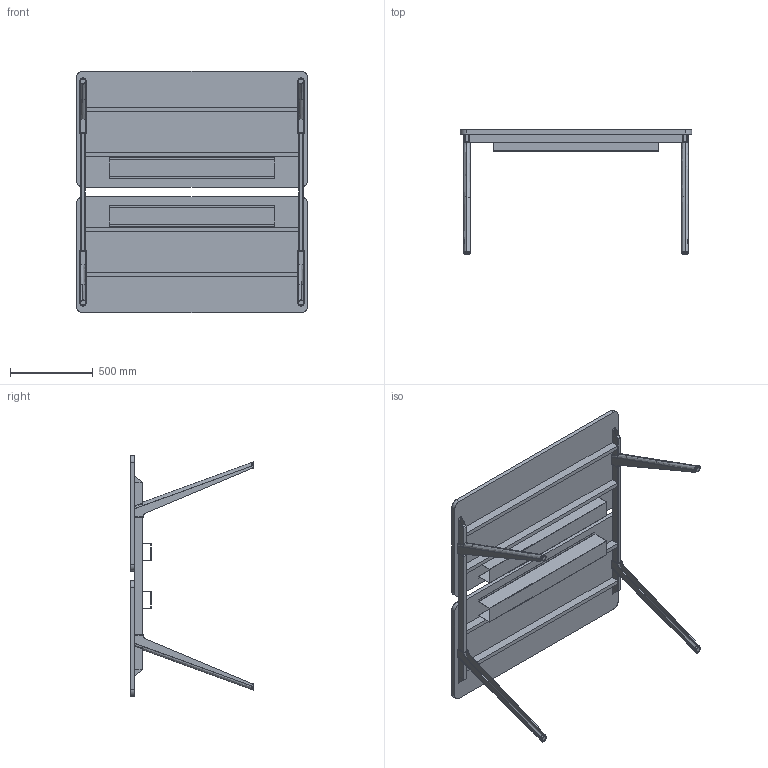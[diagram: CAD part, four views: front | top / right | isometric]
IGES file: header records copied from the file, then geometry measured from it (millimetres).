
Start section: SolidWorks IGES file using analytic representation for surfaces
Global section: file name: C:\Users\simone.cerana\OneDrive - Gruppo Tecno\Desktop\CHINA\DISEGNI DI SERIE\ASSIEMI LISTINO\HORIZON LISTINO\FULL OPTIONAL\HO1414FO.IGS; native system: SolidWorks 2024; preprocessor: SolidWorks 2024; author: simone.cerana; date: 260512.152800; units: millimetre
Bounding box: 1400 x 750.58 x 1460 mm (x, y, z)
Surface area: 6890903 mm2 (no closed solid volume)
Topology: 0 solids, 0 shells, 364 faces, 4416 edges, 4416 vertices
Faces by surface type: bspline 256, revolution 108
